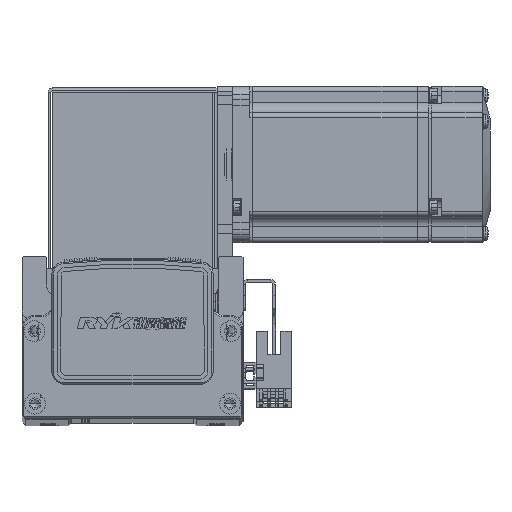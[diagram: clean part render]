
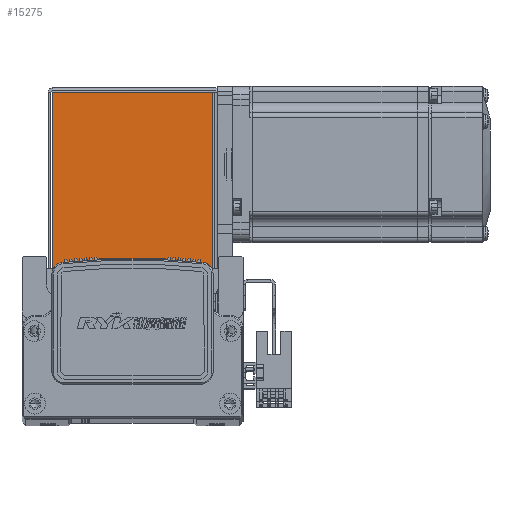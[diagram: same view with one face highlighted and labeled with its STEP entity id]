
A CAD part, top view. The second image highlights one B-rep face of the part: STEP entity #15275.
In plain terms, the highlighted planar face has unit normal (0, 0, 1) as drawn and (0, 0, -1) by its records, which use the part's own axes.
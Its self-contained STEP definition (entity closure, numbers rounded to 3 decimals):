
#3012 = CARTESIAN_POINT ( 'NONE',  ( 30.763, 0.737, -35. ) ) ;
#3019 = CARTESIAN_POINT ( 'NONE',  ( -30.793, 0.737, -35. ) ) ;
#3043 = CARTESIAN_POINT ( 'NONE',  ( -30.793, 68.5, -35. ) ) ;
#3099 = CARTESIAN_POINT ( 'NONE',  ( 30.763, 68.5, -35. ) ) ;
#15275 = ADVANCED_FACE ( 'NONE', ( #75177 ), #21221, .F. ) ;
#21084 = DIRECTION ( 'NONE',  ( 0., 0., 1. ) ) ;
#21221 = PLANE ( 'NONE',  #62951 ) ;
#21226 = CARTESIAN_POINT ( 'NONE',  ( 0., 0., -35. ) ) ;
#21229 = DIRECTION ( 'NONE',  ( 0., -1., 0. ) ) ;
#23757 = EDGE_CURVE ( 'NONE', #54667, #54701, #61916, .T. ) ;
#23779 = EDGE_CURVE ( 'NONE', #54681, #54667, #45467, .T. ) ;
#23796 = EDGE_CURVE ( 'NONE', #54701, #54682, #45509, .T. ) ;
#23797 = EDGE_CURVE ( 'NONE', #54681, #54682, #45544, .T. ) ;
#39632 = DIRECTION ( 'NONE',  ( 0., 1., 0. ) ) ;
#39656 = CARTESIAN_POINT ( 'NONE',  ( -30.793, 0., -35. ) ) ;
#39669 = DIRECTION ( 'NONE',  ( 0., -1., 0. ) ) ;
#39683 = DIRECTION ( 'NONE',  ( 1., 0., 0. ) ) ;
#39688 = CARTESIAN_POINT ( 'NONE',  ( 30.763, 68.5, -35. ) ) ;
#39700 = CARTESIAN_POINT ( 'NONE',  ( 32.5, 0.737, -35. ) ) ;
#45371 = CARTESIAN_POINT ( 'NONE',  ( 0., 68.5, -35. ) ) ;
#45401 = DIRECTION ( 'NONE',  ( 1., 0., 0. ) ) ;
#45467 = LINE ( 'NONE', #39656, #45468 ) ;
#45468 = VECTOR ( 'NONE', #39632, 1000. ) ;
#45509 = LINE ( 'NONE', #39688, #45511 ) ;
#45511 = VECTOR ( 'NONE', #39669, 1000. ) ;
#45540 = VECTOR ( 'NONE', #39683, 1000. ) ;
#45544 = LINE ( 'NONE', #39700, #45540 ) ;
#53766 = ORIENTED_EDGE ( 'NONE', *, *, #23796, .T. ) ;
#53783 = ORIENTED_EDGE ( 'NONE', *, *, #23797, .F. ) ;
#53790 = ORIENTED_EDGE ( 'NONE', *, *, #23757, .T. ) ;
#53812 = ORIENTED_EDGE ( 'NONE', *, *, #23779, .T. ) ;
#54667 = VERTEX_POINT ( 'NONE', #3043 ) ;
#54681 = VERTEX_POINT ( 'NONE', #3019 ) ;
#54682 = VERTEX_POINT ( 'NONE', #3012 ) ;
#54701 = VERTEX_POINT ( 'NONE', #3099 ) ;
#61916 = LINE ( 'NONE', #45371, #61982 ) ;
#61982 = VECTOR ( 'NONE', #45401, 1000. ) ;
#62951 = AXIS2_PLACEMENT_3D ( 'NONE', #21226, #21084, #21229 ) ;
#75177 = FACE_OUTER_BOUND ( 'NONE', #76506, .T. ) ;
#76506 = EDGE_LOOP ( 'NONE', ( #53766, #53783, #53812, #53790 ) ) ;
